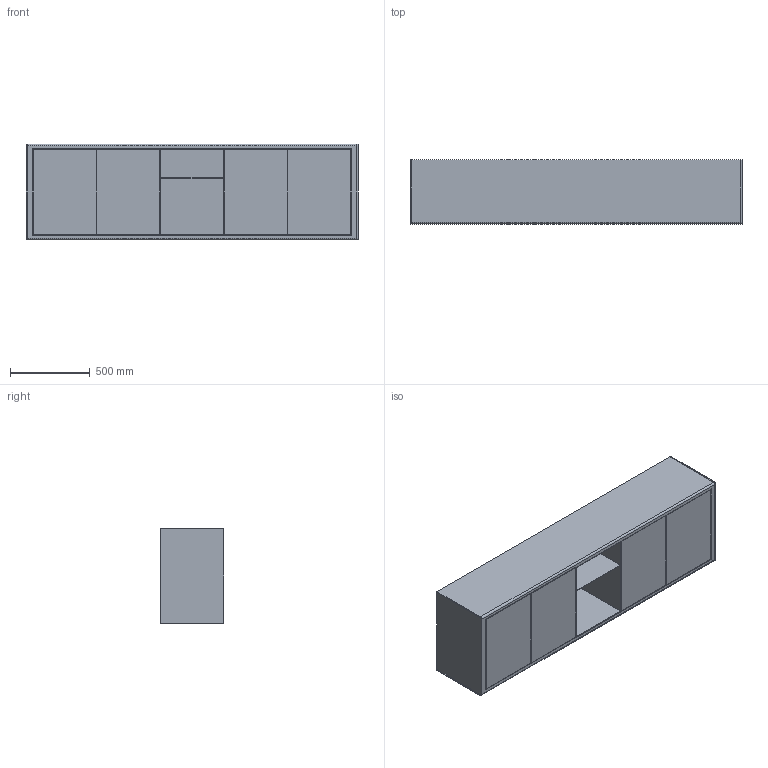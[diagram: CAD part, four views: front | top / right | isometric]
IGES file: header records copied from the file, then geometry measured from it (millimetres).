
Start section: Comment
Global section: file name: S36-H3-208-01.igs; native system:  By UGS Corp.; preprocessor: XPlus GENERIC/IGES 3.0; author: Author; organization: Title; date: 20151026.165617; units: inch
Bounding box: 2080 x 400 x 600 mm (x, y, z)
Surface area: 10995266.2 mm2 (no closed solid volume)
Topology: 0 solids, 0 shells, 60 faces, 300 edges, 300 vertices
Faces by surface type: bspline 60
